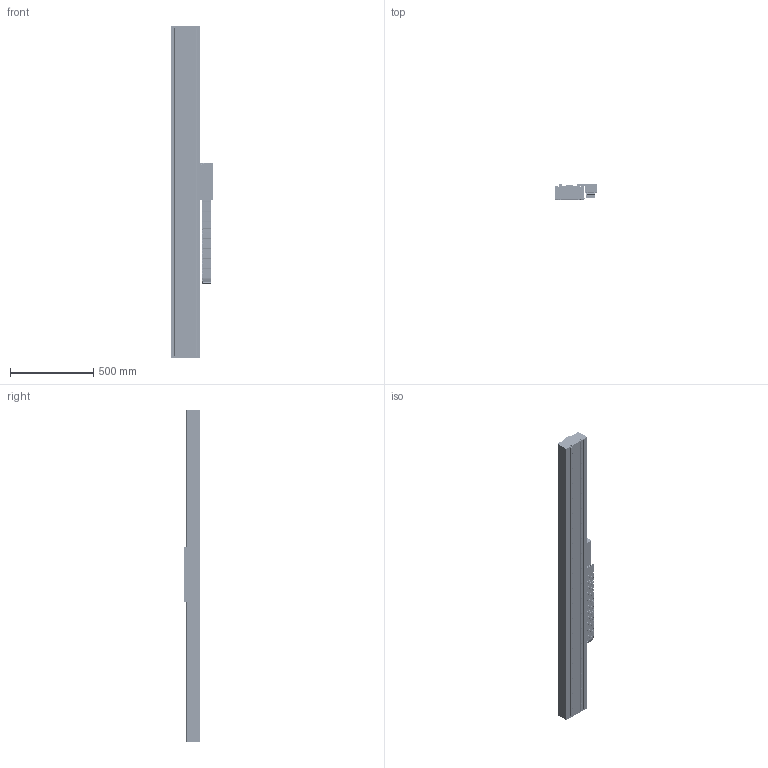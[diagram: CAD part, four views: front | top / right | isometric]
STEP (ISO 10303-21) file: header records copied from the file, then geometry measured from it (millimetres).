
FILE_DESCRIPTION (( 'STEP AP203' ), '1' );
FILE_NAME ('STF35230N-xC1B-Bxx.STEP', '2007-07-02T21:19:51', ( 'Yaskawa' ), ( 'Yaskawa' ), 'SwSTEP 2.0', 'SolidWorks 2007', '' );
FILE_SCHEMA (( 'CONFIG_CONTROL_DESIGN' ));
Length unit declared in the file: millimetre
Products named in the file (62): 07.50.028.0_118; 07.50.028.0_119; 07.50.028.0_103; B18.3.1M - 6 x 1.0 x 16 Hex SHCS -- 16NHX_B18.3.1M - 6 x 1.0 x 16 Hex SHCS -- 16NHX; STCM-001-R2 Cable Bracket; STF2035-010-02 Side Cover 2_O; 07.50.028.0_105; Mult-SR15+580LY_014; STF35230 Complete Carriage; 07.50.028.0_106; 07.50.028.0_109; STF2035-007 End Stop; 07.50.028.0_101; STF2035-005-R2 Cable Router; 07.50.028.0_113; STCM-007 Lower E-Chain Bracket; SSR15W Block; 07.50.028.0_115; 07.50.028.0_114; SGLFM-35756AC; SGLFM-35324AC; 07.50.028.0_116; 07.50.028.0_122; B18.3.5M - 3 x 0.5 x 6 Socket FCHS  -- 6N_B18.3.5M - 3 x 0.5 x 6 Socket FCHS  -- 6N; STF2035-004 Flag; 07.50.028.0_100; 07.50.028.0_110; STCM-R1; 07.50.028.0_104; STF2035-001D F35-230 Carriage; SGLFW-35A230AP; 07.50.028.0_97; End Stop with Bumper; STCM-003 Cable Assembly Bottom; STF35230N-xC1B-Bxx; STF35BM Base_STF35120-014; 07.50.028.0_120; STCM-006-R1 Upper E-chain Bracket; STF2035-009-02 Top Cover 2_O; 07.50.028.0_107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
Assembly tree (109 placements, depth 4):
  STF35230N-xC1B-Bxx
    STF20120O
      07.50.028.0_121
      07.50.028.0_111  x15
      07.50.028.0_105  x14
      07.50.028.0_119
      07.50.028.0_110
      07.50.028.0_112
      07.50.028.0_123
      07.50.028.0_114
      07.50.028.0_99
      07.50.028.0_108
      07.50.028.0_101
      07.50.028.0_116
      07.50.028.0_115
      07.50.028.0_117
      07.50.028.0_122
      07.50.028.0_97
      07.50.028.0_120
      07.50.028.0_113
      07.50.028.0_98
      07.50.028.0_104
      07.50.028.0_107
      07.50.028.0_109
      07.50.028.0_102
      07.50.028.0_100
      07.50.028.0_103
      07.50.028.0_118
      07.50.028.0_96
      07.50.028.0_106
    STF2035-009-02 Top Cover 2_O
    STF2035-006 Endplate  x2
    STF2035-010-02 Side Cover 2_O  x2
    STF35230 Complete Carriage
      SSR15W Block  x6
      SGLFW-35A230AP
      STF2035-004 Flag
      STF2035-001D F35-230 Carriage
      STF2035-003 Renishaw Encoder Mount
      STF2035-005-R2 Cable Router
      RGH22B
      STF2035-002B-R1 F35-230 Carriage Horn  x2
      STCM-R1
        STCM-001-R2 Cable Bracket
        STCM-002-R2 Cable Assembly Front
        STCM-003 Cable Assembly Bottom
        STCM-005-R1 Cable Assembly Cover
        STCM-004 Cable Assembly Side
        B18.3.5M - 3 x 0.5 x 6 Socket FCHS  -- 6N_B18.3.5M - 3 x 0.5 x 6 Socket FCHS  -- 6N  x6
        B18.3.4M - 3 x 0.5 x 12 SBHCS --N_B18.3.4M - 3 x 0.5 x 12 SBHCS --N  x4
        Serial Converter
        STCM-006-R1 Upper E-chain Bracket
    STF35BM Base_STF35120-014
      SGLFM-35324AC
      End Stop with Bumper  x4
        B18.3.1M - 6 x 1.0 x 16 Hex SHCS -- 16NHX_B18.3.1M - 6 x 1.0 x 16 Hex SHCS -- 16NHX
        Bumper-Medium
        STF2035-007 End Stop
      SGLFM-35756AC  x2
      Mult-SR15+580LY_014  x2
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Bounding box: 254.2 x 94.7 x 1989.05 mm (x, y, z)
Volume: 11589675.8 mm3; surface area: 3862124.1 mm2
Topology: 163 solids, 163 shells, 8812 faces, 22794 edges, 14529 vertices
Faces by surface type: plane 4486, cylinder 3564, cone 660, bspline 62, torus 32, sphere 8
Entity records: 156809 total; most frequent: DIRECTION 26639, CARTESIAN_POINT 25935, ORIENTED_EDGE 24478, EDGE_CURVE 12239, AXIS2_PLACEMENT_3D 9448, VERTEX_POINT 8005, LINE 7743, VECTOR 7743
